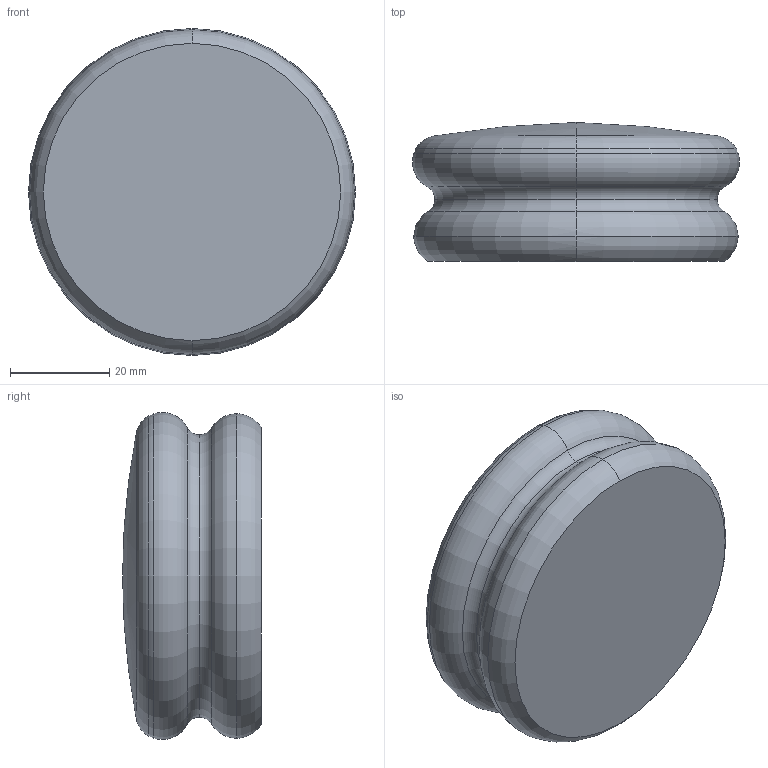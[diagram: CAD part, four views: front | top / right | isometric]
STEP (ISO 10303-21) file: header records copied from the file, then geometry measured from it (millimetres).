
FILE_DESCRIPTION (( 'STEP AP214' ), '1' );
FILE_NAME ('TUST_cristal.STEP', '2026-01-26T15:45:13', ( '' ), ( '' ), 'SwSTEP 2.0', 'SolidWorks 2023', '' );
FILE_SCHEMA (( 'AUTOMOTIVE_DESIGN' ));
Length unit declared in the file: millimetre
Products named in the file (1): TUST_cristal
Bounding box: 65.97 x 28 x 65.97 mm (x, y, z)
Volume: 81788 mm3; surface area: 11610.4 mm2
Topology: 1 solids, 1 shells, 17 faces, 32 edges, 17 vertices
Faces by surface type: torus 14, sphere 2, plane 1
Entity records: 457 total; most frequent: DIRECTION 100, CARTESIAN_POINT 67, ORIENTED_EDGE 64, AXIS2_PLACEMENT_3D 50, CIRCLE 32, EDGE_CURVE 32, ADVANCED_FACE 17, VERTEX_POINT 17
